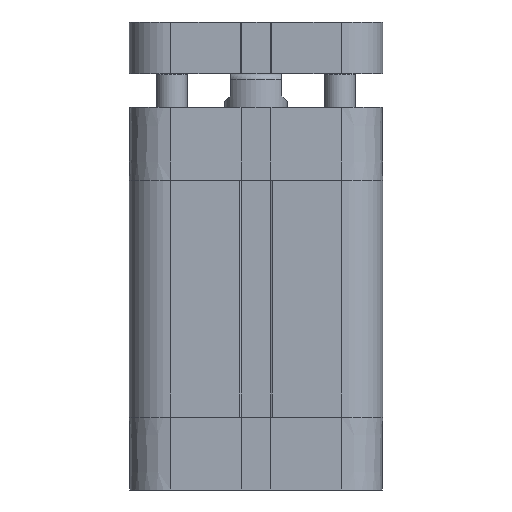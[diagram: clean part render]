
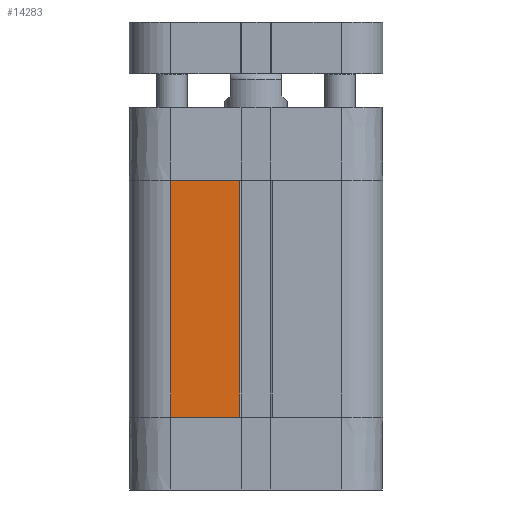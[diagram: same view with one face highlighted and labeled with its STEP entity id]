
A CAD part, left-side view. The second image highlights one B-rep face of the part: STEP entity #14283.
In plain terms, the highlighted planar face has unit normal (-1, 0, 0) as drawn and (1, 0, 0) by its records, which use the part's own axes.
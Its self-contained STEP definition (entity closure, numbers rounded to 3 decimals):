
#464=LINE('',#25741,#1740);
#495=LINE('',#25857,#1771);
#498=LINE('',#25865,#1774);
#499=LINE('',#25867,#1775);
#1740=VECTOR('',#21820,1000.);
#1771=VECTOR('',#21913,1000.);
#1774=VECTOR('',#21922,1000.);
#1775=VECTOR('',#21923,1000.);
#3463=ORIENTED_EDGE('',*,*,#7669,.F.);
#3464=ORIENTED_EDGE('',*,*,#7607,.T.);
#3465=ORIENTED_EDGE('',*,*,#7665,.F.);
#3466=ORIENTED_EDGE('',*,*,#7670,.F.);
#7607=EDGE_CURVE('',#9719,#9718,#464,.T.);
#7665=EDGE_CURVE('',#9772,#9718,#495,.T.);
#7669=EDGE_CURVE('',#9719,#9775,#498,.T.);
#7670=EDGE_CURVE('',#9775,#9772,#499,.T.);
#9718=VERTEX_POINT('',#25740);
#9719=VERTEX_POINT('',#25742);
#9772=VERTEX_POINT('',#25856);
#9775=VERTEX_POINT('',#25866);
#11712=EDGE_LOOP('',(#3463,#3464,#3465,#3466));
#12793=FACE_BOUND('',#11712,.T.);
#13860=PLANE('',#20476);
#14283=ADVANCED_FACE('',(#12793),#13860,.T.);
#20476=AXIS2_PLACEMENT_3D('',#25864,#21920,#21921);
#21820=DIRECTION('',(0.,-1.,0.));
#21913=DIRECTION('',(0.,0.,1.));
#21920=DIRECTION('',(1.,0.,0.));
#21921=DIRECTION('',(0.,0.,-1.));
#21922=DIRECTION('',(0.,0.,-1.));
#21923=DIRECTION('',(0.,-1.,0.));
#25740=CARTESIAN_POINT('',(24.5,-16.5,45.8));
#25741=CARTESIAN_POINT('',(24.5,-3.1,45.8));
#25742=CARTESIAN_POINT('',(24.5,-3.1,45.8));
#25856=CARTESIAN_POINT('',(24.5,-16.5,0.));
#25857=CARTESIAN_POINT('',(24.5,-16.5,0.));
#25864=CARTESIAN_POINT('',(24.5,16.5,0.));
#25865=CARTESIAN_POINT('',(24.5,-3.1,20.8));
#25866=CARTESIAN_POINT('',(24.5,-3.1,0.));
#25867=CARTESIAN_POINT('',(24.5,-3.1,0.));
